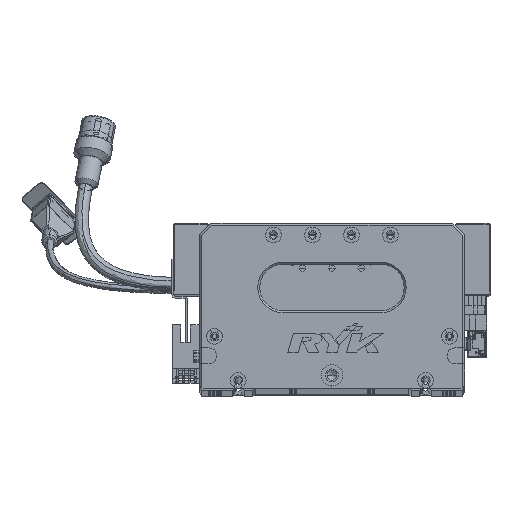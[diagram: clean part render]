
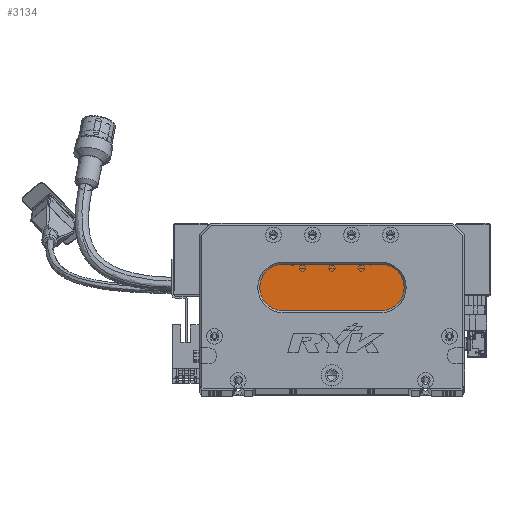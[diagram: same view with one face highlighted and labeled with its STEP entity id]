
A CAD part, top view. The second image highlights one B-rep face of the part: STEP entity #3134.
In plain terms, the highlighted planar face has unit normal (0, 0, 1) as drawn and (0, 0, -1) by its records, which use the part's own axes.
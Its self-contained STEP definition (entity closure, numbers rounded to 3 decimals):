
#1581 = DIRECTION ( 'NONE',  ( 1., 0., 0. ) ) ;
#3134 = ADVANCED_FACE ( 'NONE', ( #48567 ), #91943, .T. ) ;
#6696 = ORIENTED_EDGE ( 'NONE', *, *, #19456, .T. ) ;
#7793 = EDGE_LOOP ( 'NONE', ( #6696, #95072, #93857, #109967, #64197 ) ) ;
#14894 = DIRECTION ( 'NONE',  ( -1., 0., 0. ) ) ;
#15661 = DIRECTION ( 'NONE',  ( 0., 0., -1. ) ) ;
#19456 = EDGE_CURVE ( 'NONE', #27482, #20290, #95039, .T. ) ;
#20290 = VERTEX_POINT ( 'NONE', #29215 ) ;
#27253 = CARTESIAN_POINT ( 'NONE',  ( 93., 64., 13. ) ) ;
#27482 = VERTEX_POINT ( 'NONE', #62238 ) ;
#29215 = CARTESIAN_POINT ( 'NONE',  ( 93., 40., 13. ) ) ;
#31327 = VECTOR ( 'NONE', #1581, 1000. ) ;
#33629 = CARTESIAN_POINT ( 'NONE',  ( 93., 52., 13. ) ) ;
#34786 = CARTESIAN_POINT ( 'NONE',  ( 43., 52., 13. ) ) ;
#36399 = AXIS2_PLACEMENT_3D ( 'NONE', #33629, #15661, #14894 ) ;
#38601 = EDGE_CURVE ( 'NONE', #111578, #87230, #85086, .T. ) ;
#39349 = CARTESIAN_POINT ( 'NONE',  ( 31., 52., 13. ) ) ;
#39737 = EDGE_CURVE ( 'NONE', #87230, #27482, #101211, .T. ) ;
#44402 = DIRECTION ( 'NONE',  ( -1., 0., 0. ) ) ;
#45418 = VERTEX_POINT ( 'NONE', #59346 ) ;
#47946 = DIRECTION ( 'NONE',  ( -1., 0., 0. ) ) ;
#48567 = FACE_OUTER_BOUND ( 'NONE', #7793, .T. ) ;
#49386 = AXIS2_PLACEMENT_3D ( 'NONE', #34786, #79264, #44402 ) ;
#56695 = EDGE_CURVE ( 'NONE', #20290, #45418, #63847, .T. ) ;
#57879 = DIRECTION ( 'NONE',  ( 0., 0., -1. ) ) ;
#59346 = CARTESIAN_POINT ( 'NONE',  ( 43., 40., 13. ) ) ;
#61511 = CIRCLE ( 'NONE', #104296, 12. ) ;
#62238 = CARTESIAN_POINT ( 'NONE',  ( 93., 64., 13. ) ) ;
#63672 = AXIS2_PLACEMENT_3D ( 'NONE', #100372, #90842, #47946 ) ;
#63847 = LINE ( 'NONE', #93886, #107610 ) ;
#64197 = ORIENTED_EDGE ( 'NONE', *, *, #39737, .T. ) ;
#65900 = EDGE_CURVE ( 'NONE', #45418, #111578, #61511, .T. ) ;
#67845 = CARTESIAN_POINT ( 'NONE',  ( 43., 64., 13. ) ) ;
#73631 = DIRECTION ( 'NONE',  ( -1., 0., 0. ) ) ;
#79264 = DIRECTION ( 'NONE',  ( 0., 0., -1. ) ) ;
#85086 = CIRCLE ( 'NONE', #49386, 12. ) ;
#87230 = VERTEX_POINT ( 'NONE', #67845 ) ;
#90842 = DIRECTION ( 'NONE',  ( 0., 0., -1. ) ) ;
#91943 = PLANE ( 'NONE',  #63672 ) ;
#91952 = CARTESIAN_POINT ( 'NONE',  ( 43., 52., 13. ) ) ;
#93857 = ORIENTED_EDGE ( 'NONE', *, *, #65900, .T. ) ;
#93886 = CARTESIAN_POINT ( 'NONE',  ( 93., 40., 13. ) ) ;
#95039 = CIRCLE ( 'NONE', #36399, 12. ) ;
#95072 = ORIENTED_EDGE ( 'NONE', *, *, #56695, .T. ) ;
#100372 = CARTESIAN_POINT ( 'NONE',  ( 93., 52., 13. ) ) ;
#101171 = DIRECTION ( 'NONE',  ( -1., 0., 0. ) ) ;
#101211 = LINE ( 'NONE', #27253, #31327 ) ;
#104296 = AXIS2_PLACEMENT_3D ( 'NONE', #91952, #57879, #73631 ) ;
#107610 = VECTOR ( 'NONE', #101171, 1000. ) ;
#109967 = ORIENTED_EDGE ( 'NONE', *, *, #38601, .T. ) ;
#111578 = VERTEX_POINT ( 'NONE', #39349 ) ;
